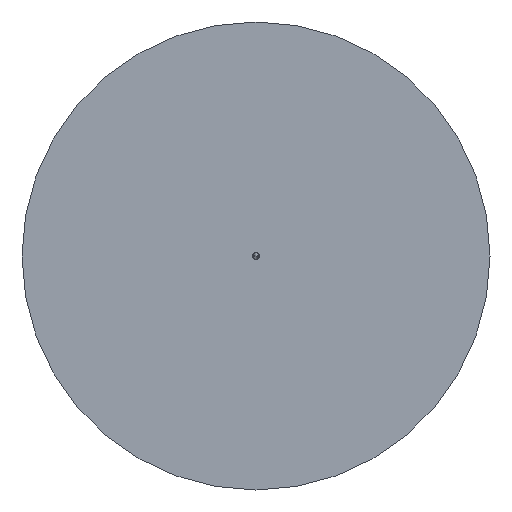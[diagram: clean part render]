
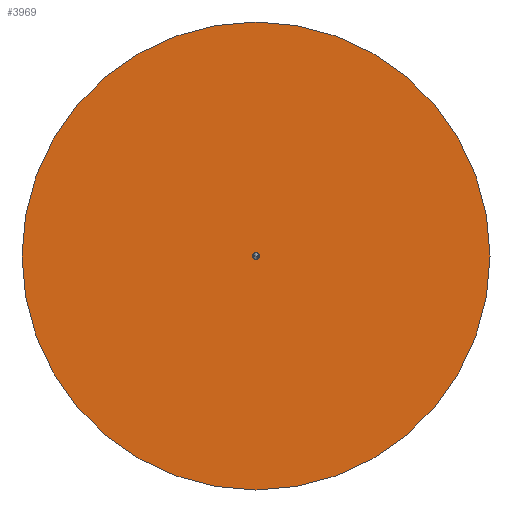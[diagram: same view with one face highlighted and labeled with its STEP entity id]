
A CAD part, front view. The second image highlights one B-rep face of the part: STEP entity #3969.
In plain terms, the highlighted planar face has unit normal (0, -1, 0).
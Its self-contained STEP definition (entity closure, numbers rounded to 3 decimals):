
#3051=CARTESIAN_POINT('',(1.1,-33.5,0.0));
#3052=VERTEX_POINT('',#3051);
#3068=CARTESIAN_POINT('',(-1.1,-33.5,0.));
#3069=VERTEX_POINT('',#3068);
#3076=CARTESIAN_POINT('',(0.0,-33.5,0.0));
#3077=DIRECTION('',(0.0,-1.0,0.0));
#3078=DIRECTION('',(1.0,0.0,0.0));
#3079=AXIS2_PLACEMENT_3D('',#3076,#3077,#3078);
#3080=CIRCLE('',#3079,1.1);
#3081=EDGE_CURVE('',#3069,#3052,#3080,.T.);
#3093=CARTESIAN_POINT('',(75.,-33.5,0.0));
#3094=VERTEX_POINT('',#3093);
#3110=CARTESIAN_POINT('',(-75.,-33.5,0.));
#3111=VERTEX_POINT('',#3110);
#3118=CARTESIAN_POINT('',(0.0,-33.5,0.0));
#3119=DIRECTION('',(0.0,-1.0,0.0));
#3120=DIRECTION('',(1.0,0.0,0.0));
#3121=AXIS2_PLACEMENT_3D('',#3118,#3119,#3120);
#3122=CIRCLE('',#3121,75.);
#3123=EDGE_CURVE('',#3094,#3111,#3122,.T.);
#3938=CARTESIAN_POINT('',(0.0,-33.5,0.0));
#3939=DIRECTION('',(0.0,-1.0,0.0));
#3940=DIRECTION('',(1.0,0.0,0.0));
#3941=AXIS2_PLACEMENT_3D('',#3938,#3939,#3940);
#3942=CIRCLE('',#3941,75.);
#3943=EDGE_CURVE('',#3111,#3094,#3942,.T.);
#3950=CARTESIAN_POINT('',(38.05,-33.5,0.0));
#3951=DIRECTION('',(0.0,-1.0,0.0));
#3952=DIRECTION('',(0.0,0.0,-1.0));
#3953=AXIS2_PLACEMENT_3D('',#3950,#3951,#3952);
#3954=PLANE('',#3953);
#3955=ORIENTED_EDGE('',*,*,#3123,.T.);
#3956=ORIENTED_EDGE('',*,*,#3943,.T.);
#3957=EDGE_LOOP('',(#3955,#3956));
#3958=FACE_OUTER_BOUND('',#3957,.T.);
#3959=CARTESIAN_POINT('',(0.0,-33.5,0.0));
#3960=DIRECTION('',(0.0,-1.0,0.0));
#3961=DIRECTION('',(1.0,0.0,0.0));
#3962=AXIS2_PLACEMENT_3D('',#3959,#3960,#3961);
#3963=CIRCLE('',#3962,1.1);
#3964=EDGE_CURVE('',#3052,#3069,#3963,.T.);
#3965=ORIENTED_EDGE('',*,*,#3964,.F.);
#3966=ORIENTED_EDGE('',*,*,#3081,.F.);
#3967=EDGE_LOOP('',(#3965,#3966));
#3968=FACE_BOUND('',#3967,.T.);
#3969=ADVANCED_FACE('',(#3958,#3968),#3954,.T.);
